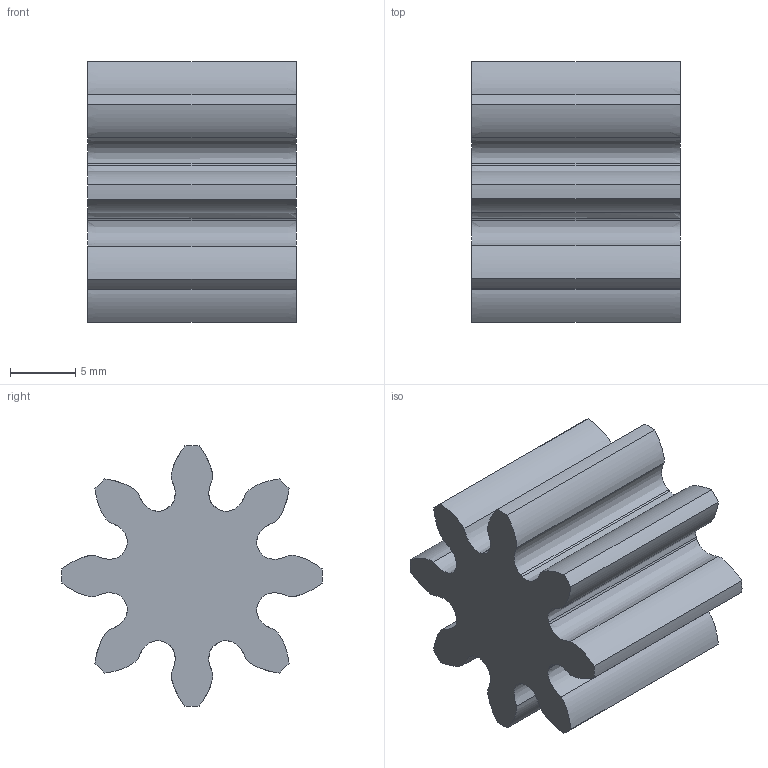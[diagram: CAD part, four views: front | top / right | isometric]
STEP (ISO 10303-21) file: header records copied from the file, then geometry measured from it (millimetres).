
FILE_DESCRIPTION(('STEP AP203'), '1');
FILE_NAME('櫻蠉錪', '', ('UNSPECIFIED'), ('UNSPECIFIED'), 'C3D Converter', 'C3D Toolkit', '');
FILE_SCHEMA(('CONFIG_CONTROL_DESIGN'));
Length unit declared in the file: millimetre
Bounding box: 16 x 20 x 20 mm (x, y, z)
Volume: 3042.3 mm3; surface area: 1942.7 mm2
Topology: 1 solids, 1 shells, 50 faces, 144 edges, 102 vertices
Faces by surface type: extrusion 32, cylinder 16, plane 2
Entity records: 5822 total; most frequent: CARTESIAN_POINT 4553, ORIENTED_EDGE 288, DIRECTION 182, EDGE_CURVE 144, B_SPLINE_CURVE_WITH_KNOTS 96, VERTEX_POINT 96, VECTOR 80, AXIS2_PLACEMENT_3D 51
